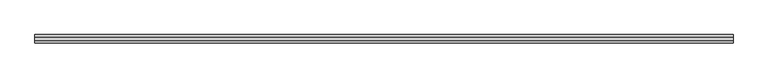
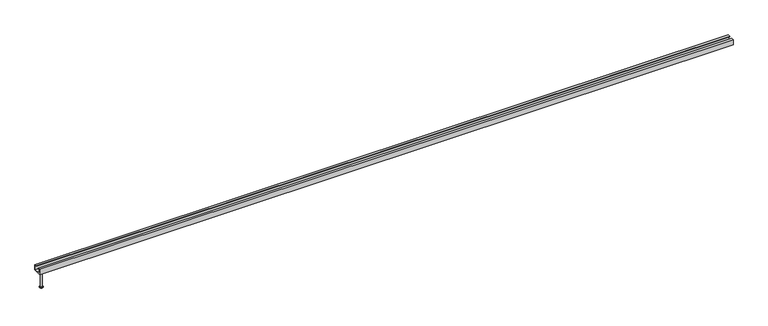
"""IFC4 building model written with IfcOpenShell, lengths in millimetres: fastener geometry, JTA-K JORDAHL® AnchorChannels : JTA-K L=6000 mm."""

from ifc_helpers import new_model, si_unit, frame, origin, place, context, project, spatial, polyline, circle_curve, outline, extrude, source, transform, mapped, element, save
from ifc_brep_helpers import plane_surface, cylinder_surface, revolved_surface, advanced_brep


def fastener_62582262(model_context):
    return source(origin(), model_context, "Body", "SolidModel", [
        advanced_brep(
        [(35.0, 0.0, -48.0), (12.0, 0.0, -48.0), (58.0, 0.0, -48.0), (19.5, 0.0, -195.0), (35.0, 0.0, -195.0), (50.5, 0.0, -195.0), (19.5, 0.0, -193.0), (50.5, 0.0, -193.0), (27.2, 0.0, -188.5544029), (42.8, 0.0, -188.5544029), (27.2, 0.0, -52.0), (42.8, 0.0, -52.0)],
        [
            (0, 1),
            (1, 2, circle_curve(frame((35.0, 0.0, -48.0), z_axis=(0.0, 0.0, 1.0), x_axis=(1.0, 0.0, 0.0)), 23.0)),
            (2, 0),
            (2, 1, circle_curve(frame((35.0, 0.0, -48.0), z_axis=(0.0, 0.0, 1.0), x_axis=(1.0, 0.0, 0.0)), 23.0)),
            (3, 4),
            (4, 5),
            (5, 3, circle_curve(frame((35.0, 0.0, -195.0), z_axis=(0.0, 0.0, -1.0), x_axis=(1.0, 0.0, 0.0)), 15.5)),
            (3, 5, circle_curve(frame((35.0, 0.0, -195.0), z_axis=(0.0, 0.0, -1.0), x_axis=(1.0, 0.0, 0.0)), 15.5)),
            (6, 3),
            (5, 7),
            (7, 6, circle_curve(frame((35.0, 0.0, -193.0), z_axis=(0.0, 0.0, -1.0), x_axis=(1.0, 0.0, 0.0)), 15.5)),
            (6, 7, circle_curve(frame((35.0, 0.0, -193.0), z_axis=(0.0, 0.0, -1.0), x_axis=(1.0, 0.0, 0.0)), 15.5)),
            (8, 6),
            (7, 9),
            (9, 8, circle_curve(frame((35.0, 0.0, -188.5544029), z_axis=(0.0, 0.0, -1.0), x_axis=(1.0, 0.0, 0.0)), 7.8)),
            (8, 9, circle_curve(frame((35.0, 0.0, -188.5544029), z_axis=(0.0, 0.0, -1.0), x_axis=(1.0, 0.0, 0.0)), 7.8)),
            (10, 8),
            (9, 11),
            (11, 10, circle_curve(frame((35.0, 0.0, -52.0), z_axis=(0.0, 0.0, -1.0), x_axis=(1.0, 0.0, 0.0)), 7.8)),
            (10, 11, circle_curve(frame((35.0, 0.0, -52.0), z_axis=(0.0, 0.0, -1.0), x_axis=(1.0, 0.0, 0.0)), 7.8)),
            (1, 10),
            (11, 2),
        ],
        [
            plane_surface(frame((35.0, 0.0, -48.0), z_axis=(0.0, 0.0, 1.0), x_axis=(1.0, 0.0, 0.0))),
            plane_surface(frame((35.0, 0.0, -195.0), z_axis=(0.0, 0.0, -1.0), x_axis=(1.0, 0.0, 0.0))),
            cylinder_surface(frame((35.0, 0.0, 2361.3150031), z_axis=(0.0, 0.0, 1.0), x_axis=(1.0, 0.0, 0.0)), 15.5),
            revolved_surface(polyline([(50.5, 0.0, -193.0), (42.8, 0.0, -188.5544029)]), (35.0, 0.0, 2361.3150031), (0.0, 0.0, 1.0)),
            cylinder_surface(frame((35.0, 0.0, 2361.3150031), z_axis=(0.0, 0.0, 1.0), x_axis=(1.0, 0.0, 0.0)), 7.8),
            revolved_surface(polyline([(42.8, 0.0, -52.0), (58.0, 0.0, -48.0)]), (35.0, 0.0, 2361.3150031), (0.0, 0.0, 1.0)),
        ],
        [
            (0, [[1, 2, 3]]),
            (0, [[-3, 4, -1]]),
            (1, [[5, 6, 7]]),
            (1, [[-6, -5, 8]]),
            (2, [[9, -7, 10, 11]]),
            (2, [[-10, -8, -9, 12]]),
            (3, [[13, -11, 14, 15]]),
            (3, [[-14, -12, -13, 16]]),
            (4, [[17, -15, 18, 19]]),
            (4, [[-18, -16, -17, 20]]),
            (5, [[21, -19, 22, -2]]),
            (5, [[-22, -20, -21, -4]]),
        ],
    ),
        extrude(outline(polyline([(-36.0, 0.0), (-16.5, 0.0), (-16.5, -6.0), (-30.0, -6.0), (-30.0, -42.0), (30.0, -42.0), (30.0, -6.0), (16.5, -6.0), (16.5, 0.0), (36.0, 0.0), (36.0, -48.0), (-36.0, -48.0), (-36.0, 0.0)])), frame((0.0, 0.0, 0.0), z_axis=(1.0, 0.0, 0.0), x_axis=(0.0, 1.0, 0.0)), (0.0, 0.0, 1.0), 6000.0),
    ])


if __name__ == "__main__":
    model = new_model("IFC4")
    model_context = context("Model", 3, world=origin())
    ifc_project = project(units=[si_unit("LENGTHUNIT", "METRE", prefix="MILLI")], contexts=[model_context])
    site = spatial("IfcSite", under=ifc_project)
    building = spatial("IfcBuilding", under=site)
    placement = place(None, origin())
    fastener_shape = fastener_62582262(model_context)
    element("IfcFastener", 1, ObjectType="JTA-K JORDAHL® AnchorChannels : JTA-K L=6000 mm", at=placement, inside=building, context=model_context, shape_type="MappedRepresentation", body=[
        mapped(fastener_shape, transform((0.0, 0.0, 0.0), x_axis=(1.0, 0.0, 0.0), y_axis=(0.0, 1.0, 0.0), z_axis=(0.0, 0.0, 1.0))),
    ])
    save(model, "model.ifc")
